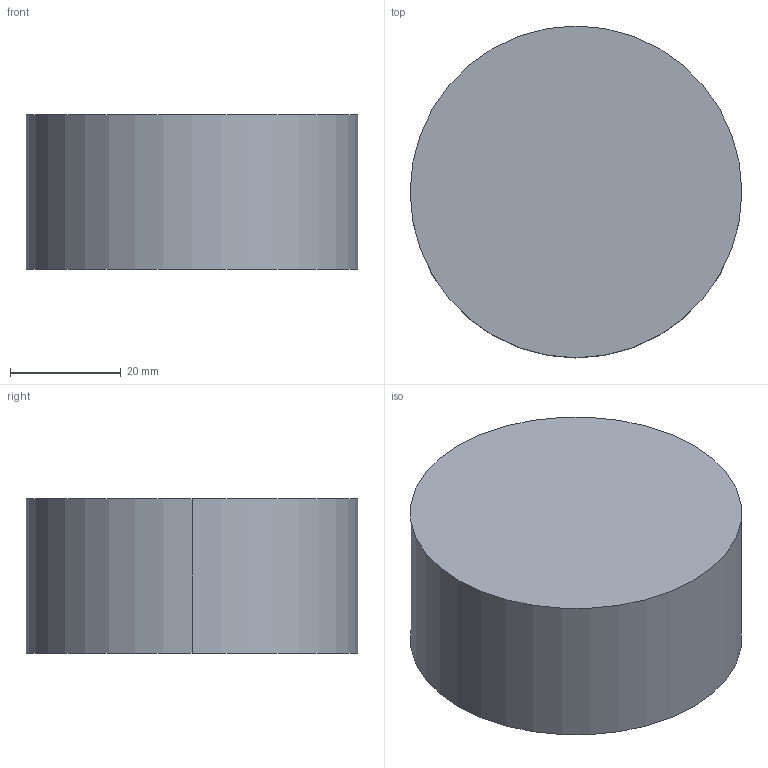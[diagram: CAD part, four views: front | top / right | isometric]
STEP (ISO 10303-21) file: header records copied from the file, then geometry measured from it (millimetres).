
FILE_DESCRIPTION (( 'STEP AP203' ), '1' );
FILE_NAME ('V2_REF_wheel_D60.STEP', '2026-09-18T10:18:31', ( '15300530775@163.com' ), ( '' ), 'SwSTEP 2.0', 'SolidWorks 2026', '' );
FILE_SCHEMA (( 'CONFIG_CONTROL_DESIGN' ));
Length unit declared in the file: millimetre
Products named in the file (1): V2_REF_wheel_D60
Bounding box: 60 x 60 x 28 mm (x, y, z)
Volume: 79168.1 mm3; surface area: 10932.7 mm2
Topology: 1 solids, 1 shells, 4 faces, 6 edges, 4 vertices
Faces by surface type: cylinder 2, plane 2
Entity records: 171 total; most frequent: DIRECTION 20, CARTESIAN_POINT 15, ORIENTED_EDGE 12, AXIS2_PLACEMENT_3D 9, PERSON_AND_ORGANIZATION 8, EDGE_CURVE 6, CC_DESIGN_PERSON_AND_ORGANIZATION_ASSIGNMENT 5, DATE_AND_TIME 5
